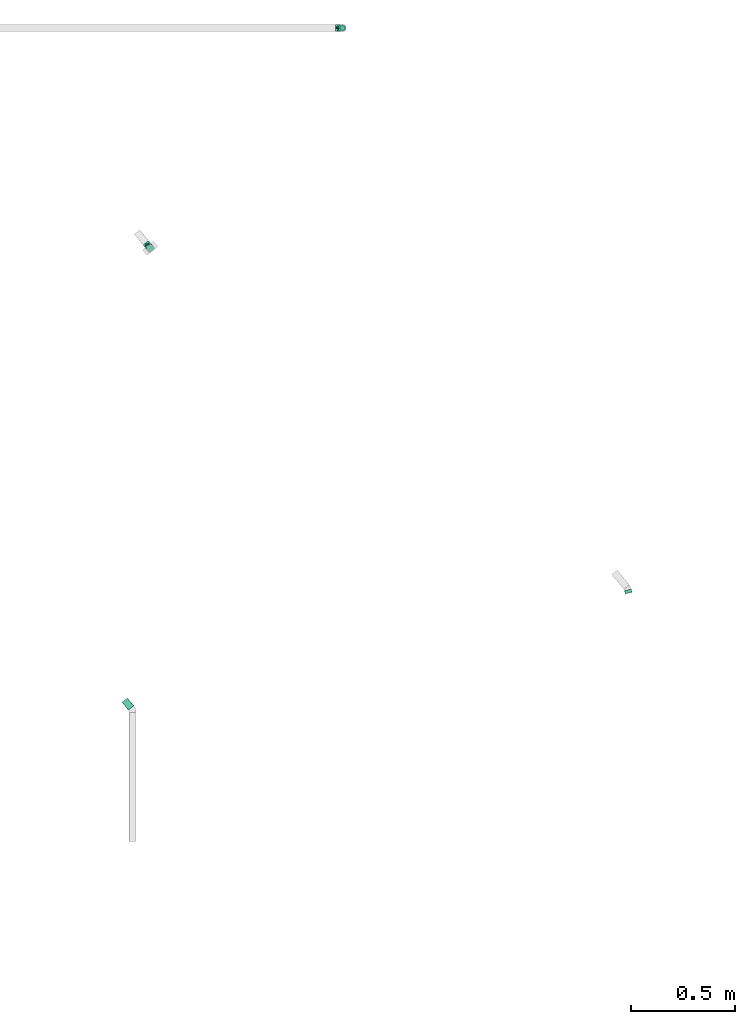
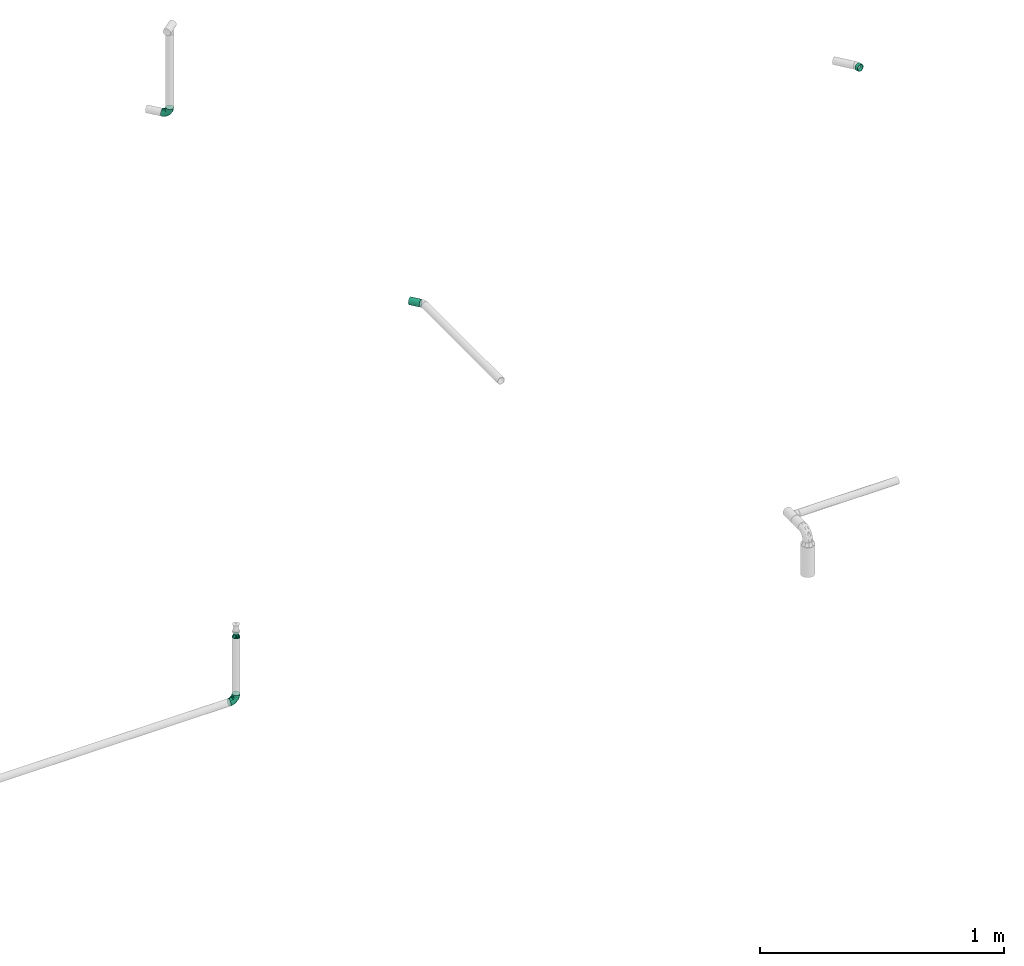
# One storey, part 53 of 63: 3 flow fittings, 2 flow segments.
"""IFC2X3 building model written with IfcOpenShell, lengths in millimetres."""

from ifc_helpers import new_model, entity, si_unit, converted_unit, derived_unit, direction, frame, origin_with_axes, origin_2d_with_axis, place, context, subcontext, project, spatial, hollow_circle, extrude, open_shell, surface_model, source, transform, mapped, type_object, element, save


model = new_model("IFC2X3")

# Units and contexts
model_context = context("Model", 3, precision=0.01, world=frame((0.0, 4.29681676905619e-09, 0.0)), true_north=direction((4.01073788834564e-13, 1.0)))
plan_context = context("Plan", 3, precision=0.01, world=frame((0.0, 4.29681676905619e-09, 0.0)), true_north=direction((4.01073788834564e-13, 1.0)))
body_context = subcontext(model_context, "Body", "Model", "MODEL_VIEW")
ifc_project = project(units=[converted_unit("PLANEANGLEUNIT", "DEGREE", entity("IfcPositiveLengthMeasure", 0.0174532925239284), si_unit("PLANEANGLEUNIT", "RADIAN"), dimensions=[0, 0, 0, 0, 0, 0, 0]), si_unit("AREAUNIT", "SQUARE_METRE"), si_unit("LENGTHUNIT", "METRE", prefix="MILLI"), si_unit("MASSUNIT", "GRAM", prefix="KILO"), si_unit("POWERUNIT", "WATT"), si_unit("PRESSUREUNIT", "PASCAL", prefix="KILO"), si_unit("FORCEUNIT", "NEWTON", prefix="KILO"), si_unit("ELECTRICVOLTAGEUNIT", "VOLT"), si_unit("ELECTRICCURRENTUNIT", "AMPERE"), si_unit("THERMODYNAMICTEMPERATUREUNIT", "DEGREE_CELSIUS"), si_unit("TIMEUNIT", "SECOND"), si_unit("VOLUMEUNIT", "CUBIC_METRE"), derived_unit("LINEARVELOCITYUNIT", [(si_unit("LENGTHUNIT", "METRE"), 1), (si_unit("TIMEUNIT", "SECOND"), -1)]), derived_unit("VOLUMETRICFLOWRATEUNIT", [(si_unit("VOLUMEUNIT", "CUBIC_METRE"), 1), (si_unit("TIMEUNIT", "SECOND"), -1)]), derived_unit("THERMALTRANSMITTANCEUNIT", [(si_unit("POWERUNIT", "WATT"), 1), (si_unit("THERMODYNAMICTEMPERATUREUNIT", "KELVIN"), -1), (si_unit("AREAUNIT", "SQUARE_METRE"), -1)]), derived_unit("SOUNDPRESSUREUNIT", [(si_unit("PRESSUREUNIT", "PASCAL"), 1)])], contexts=[model_context, plan_context])

# Site, building, storey
site_placement = place(None, frame((0.0, -4.29681676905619e-09, 0.0), z_axis=(0.0, 0.0, 1.0), x_axis=(1.0, 0.0, 0.0)))
site = spatial("IfcSite", under=ifc_project, at=site_placement, CompositionType="ELEMENT")
building_placement = place(site_placement, frame((0.0, 4.29681676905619e-09, 0.0), z_axis=(0.0, 0.0, 1.0), x_axis=(1.0, 0.0, 0.0)))
building = spatial("IfcBuilding", under=site, at=building_placement, Name="mc-building", CompositionType="ELEMENT")
storey_placement = place(building_placement, frame((0.0, 0.0, 207370.0), z_axis=(0.0, 0.0, 1.0), x_axis=(1.0, 0.0, 0.0)))
storey = spatial("IfcBuildingStorey", under=building, at=storey_placement, Name="Nivå E", CompositionType="ELEMENT", Elevation=207370.0)

# Flow fittings
pipe_fitting_type_1 = type_object("IfcPipeFittingType", Name="magi_pipe_fe_reducer_centric_short_NOR", PredefinedType="TRANSITION")
shared_shape_1 = source(origin_with_axes(), body_context, "Body", "SurfaceModel", [
    surface_model("IfcShellBasedSurfaceModel", [(14.4, 5.35, -9.26647), (14.4, 0.0, -10.7), (14.4, 2.76936, -10.33541), (14.4, 10.33541, -2.76936), (14.4, 7.56604, -7.56604), (14.4, -10.33541, -2.76936), (14.4, 9.26647, -5.35), (14.4, 0.0, 10.7), (14.4, -5.35, -9.26647), (14.4, -2.76936, -10.33541), (14.4, -7.56604, -7.56604), (14.4, -9.26647, -5.35), (14.4, 10.7, 0.0), (14.4, 10.33541, 2.76936), (14.4, 9.26647, 5.35), (14.4, 7.56604, 7.56604), (14.4, 2.76936, 10.33541), (14.4, 5.35, 9.26647), (14.4, -10.33541, 2.76936), (14.4, -7.56604, 7.56604), (14.4, -9.26647, 5.35), (14.4, -10.7, 0.0), (14.4, -2.76936, 10.33541), (14.4, -5.35, 9.26647), (12.4, 2.76936, 10.33541), (12.4, -10.33541, -2.76936), (12.4, 0.0, 10.7), (12.4, 5.35, 9.26647), (12.4, 7.56604, 7.56604), (12.4, 9.26647, 5.35), (12.4, 10.33541, 2.76936), (12.4, -10.33541, 2.76936), (12.4, -2.76936, 10.33541), (12.4, -7.56604, 7.56604), (12.4, -5.35, 9.26647), (12.4, -9.26647, 5.35), (12.4, -10.7, 0.0), (12.4, 10.33541, -2.76936), (12.4, 5.35, -9.26647), (12.4, 9.26647, -5.35), (12.4, 7.56604, -7.56604), (12.4, 2.76936, -10.33541), (12.4, -9.26647, -5.35), (12.4, -5.35, -9.26647), (12.4, -7.56604, -7.56604), (12.4, 0.0, -10.7), (12.4, -2.76936, -10.33541), (12.4, 10.7, 0.0), (-2.0, 11.9501, 11.9501), (-2.0, 0.0, 16.9), (-2.0, 4.37404, 16.32415), (-2.0, 8.45, 14.63583), (-2.0, 14.63583, 8.45), (-2.0, 16.32415, 4.37404), (-2.0, -16.32415, 4.37404), (-2.0, -8.45, 14.63583), (-2.0, -14.63583, 8.45), (-2.0, -11.9501, 11.9501), (-2.0, -4.37404, 16.32415), (-2.0, -16.32415, -4.37404), (-2.0, -16.9, 0.0), (-2.0, -8.45, -14.63583), (-2.0, 16.32415, -4.37404), (-2.0, 11.9501, -11.9501), (-2.0, 14.63583, -8.45), (-2.0, 8.45, -14.63583), (-2.0, 4.37404, -16.32415), (-2.0, 0.0, -16.9), (-2.0, -11.9501, -11.9501), (-2.0, -14.63583, -8.45), (-2.0, -4.37404, -16.32415), (-2.0, 16.9, 0.0), (0.0, 4.37404, -16.32415), (0.0, 8.45, -14.63583), (0.0, 11.9501, -11.9501), (0.0, 0.0, -16.9), (0.0, 16.32415, -4.37404), (0.0, 16.32415, 4.37404), (0.0, 14.63583, -8.45), (0.0, -8.45, -14.63583), (0.0, -4.37404, -16.32415), (0.0, -11.9501, -11.9501), (0.0, -16.32415, -4.37404), (0.0, -14.63583, -8.45), (0.0, -16.32415, 4.37404), (0.0, 16.9, 0.0), (0.0, 14.63583, 8.45), (0.0, 11.9501, 11.9501), (0.0, 4.37404, 16.32415), (0.0, 8.45, 14.63583), (0.0, 0.0, 16.9), (0.0, -14.63583, 8.45), (0.0, -16.9, 0.0), (0.0, -8.45, 14.63583), (0.0, -11.9501, 11.9501), (0.0, -4.37404, 16.32415), (12.4, 9.3625, -2.31662), (0.0, 14.42505, -5.97505), (0.0, 15.66253, -2.98753), (12.4, -6.6875, -6.94985), (0.0, -13.18758, -8.96258), (0.0, 2.98753, -15.66253), (12.4, 0.0, -9.26647), (12.4, 6.6875, -6.94985), (0.0, 8.96258, -13.18758), (12.4, -9.3625, -2.31662), (0.0, -15.66253, -2.98753), (0.0, -14.42505, -5.97505), (0.0, 5.97505, -14.42505), (0.0, -2.98753, -15.66253), (0.0, -8.96258, -13.18758), (0.0, 13.18758, -8.96258), (12.4, 8.025, -4.63324), (12.4, -2.675, -9.26647), (12.4, 2.675, -9.26647), (0.0, -5.97505, -14.42505), (12.4, -8.025, -4.63324), (12.4, -9.3625, 2.31662), (0.0, -14.42505, 5.97505), (0.0, -15.66253, 2.98753), (12.4, 6.6875, 6.94985), (0.0, 13.18758, 8.96258), (0.0, -2.98753, 15.66253), (12.4, 0.0, 9.26647), (12.4, -6.6875, 6.94985), (0.0, -8.96258, 13.18758), (12.4, 9.3625, 2.31662), (0.0, 15.66253, 2.98753), (0.0, 14.42505, 5.97505), (0.0, -5.97505, 14.42505), (0.0, 2.98753, 15.66253), (0.0, 8.96258, 13.18758), (0.0, -13.18758, 8.96258), (12.4, -8.025, 4.63324), (12.4, 2.675, 9.26647), (12.4, -2.675, 9.26647), (0.0, 5.97505, 14.42505), (12.4, 8.025, 4.63324)], [open_shell([[[0, 1, 2]], [[3, 0, 4]], [[5, 0, 3]], [[3, 4, 6]], [[7, 5, 3]], [[1, 8, 9]], [[1, 0, 8]], [[10, 5, 11]], [[5, 10, 8]], [[0, 5, 8]], [[3, 12, 13]], [[13, 14, 15]], [[13, 15, 16]], [[7, 3, 16]], [[16, 15, 17]], [[7, 18, 5]], [[18, 19, 20]], [[21, 5, 18]], [[19, 22, 23]], [[22, 19, 18]], [[7, 22, 18]], [[13, 16, 3]], [[24, 25, 26]], [[27, 25, 24]], [[28, 29, 30]], [[28, 25, 27]], [[31, 26, 25]], [[32, 33, 34]], [[33, 32, 31]], [[33, 31, 35]], [[32, 26, 31]], [[31, 25, 36]], [[30, 37, 28]], [[25, 28, 37]], [[38, 37, 39]], [[37, 38, 25]], [[38, 39, 40]], [[41, 25, 38]], [[42, 43, 44]], [[43, 42, 25]], [[43, 45, 46]], [[43, 25, 41]], [[41, 45, 43]], [[37, 30, 47]], [[25, 5, 36]], [[42, 11, 25]], [[8, 44, 43]], [[42, 44, 10]], [[9, 43, 46]], [[25, 11, 5]], [[5, 21, 36]], [[9, 8, 43]], [[10, 44, 8]], [[10, 11, 42]], [[1, 9, 46]], [[46, 45, 1]], [[41, 2, 45]], [[38, 0, 41]], [[6, 40, 39]], [[38, 40, 4]], [[3, 39, 37]], [[38, 4, 0]], [[0, 2, 41]], [[12, 3, 37]], [[6, 39, 3]], [[6, 4, 40]], [[47, 12, 37]], [[45, 2, 1]], [[30, 13, 47]], [[29, 14, 30]], [[17, 28, 27]], [[29, 28, 15]], [[16, 27, 24]], [[30, 14, 13]], [[13, 12, 47]], [[16, 17, 27]], [[15, 28, 17]], [[15, 14, 29]], [[7, 16, 24]], [[24, 26, 7]], [[32, 22, 26]], [[34, 23, 32]], [[20, 33, 35]], [[34, 33, 19]], [[18, 35, 31]], [[34, 19, 23]], [[23, 22, 32]], [[21, 18, 31]], [[20, 35, 18]], [[20, 19, 33]], [[36, 21, 31]], [[26, 22, 7]], [[48, 49, 50]], [[48, 50, 51]], [[48, 52, 53]], [[48, 53, 49]], [[49, 53, 54]], [[55, 56, 57]], [[55, 58, 49]], [[56, 55, 49]], [[49, 54, 56]], [[54, 59, 60]], [[54, 53, 61]], [[53, 62, 63]], [[63, 62, 64]], [[63, 65, 66]], [[61, 53, 63]], [[67, 63, 66]], [[59, 68, 69]], [[68, 59, 61]], [[61, 67, 70]], [[59, 54, 61]], [[63, 67, 61]], [[53, 71, 62]], [[72, 73, 74]], [[75, 72, 74]], [[74, 76, 77]], [[76, 74, 78]], [[74, 77, 79]], [[75, 79, 80]], [[75, 74, 79]], [[81, 82, 83]], [[82, 81, 79]], [[79, 84, 82]], [[77, 76, 85]], [[77, 86, 87]], [[77, 87, 88]], [[88, 84, 79]], [[88, 87, 89]], [[84, 88, 90]], [[90, 91, 84]], [[92, 82, 84]], [[91, 93, 94]], [[91, 90, 93]], [[93, 90, 95]], [[79, 77, 88]], [[59, 82, 60]], [[69, 83, 59]], [[79, 68, 61]], [[69, 68, 81]], [[80, 61, 70]], [[59, 83, 82]], [[82, 92, 60]], [[80, 79, 61]], [[81, 68, 79]], [[81, 83, 69]], [[75, 80, 70]], [[70, 67, 75]], [[66, 72, 67]], [[65, 73, 66]], [[78, 63, 64]], [[65, 63, 74]], [[76, 64, 62]], [[65, 74, 73]], [[73, 72, 66]], [[85, 76, 62]], [[78, 64, 76]], [[78, 74, 63]], [[71, 85, 62]], [[67, 72, 75]], [[53, 77, 71]], [[52, 86, 53]], [[89, 48, 51]], [[52, 48, 87]], [[88, 51, 50]], [[53, 86, 77]], [[77, 85, 71]], [[88, 89, 51]], [[87, 48, 89]], [[87, 86, 52]], [[90, 88, 50]], [[50, 49, 90]], [[58, 95, 49]], [[55, 93, 58]], [[91, 57, 56]], [[55, 57, 94]], [[84, 56, 54]], [[55, 94, 93]], [[93, 95, 58]], [[92, 84, 54]], [[91, 56, 84]], [[91, 94, 57]], [[60, 92, 54]], [[49, 95, 90]], [[27, 34, 47]], [[47, 34, 43]], [[43, 38, 47]], [[43, 34, 36]], [[90, 87, 94]], [[92, 94, 87]], [[87, 74, 92]], [[75, 92, 74]], [[81, 92, 75]], [[74, 87, 85]], [[96, 97, 98]], [[81, 99, 100]], [[101, 102, 75]], [[98, 85, 47]], [[74, 103, 104]], [[104, 103, 38]], [[105, 106, 107]], [[38, 108, 104]], [[102, 109, 75]], [[110, 99, 81]], [[47, 96, 98]], [[103, 111, 112]], [[109, 102, 113]], [[36, 92, 106]], [[102, 101, 114]], [[110, 115, 43]], [[96, 112, 97]], [[107, 116, 105]], [[36, 106, 105]], [[113, 115, 109]], [[43, 115, 113]], [[116, 107, 100]], [[108, 38, 114]], [[111, 103, 74]], [[111, 97, 112]], [[99, 110, 43]], [[116, 100, 99]], [[101, 108, 114]], [[117, 118, 119]], [[87, 120, 121]], [[122, 123, 90]], [[119, 92, 36]], [[94, 124, 125]], [[125, 124, 34]], [[126, 127, 128]], [[34, 129, 125]], [[123, 130, 90]], [[131, 120, 87]], [[36, 117, 119]], [[124, 132, 133]], [[130, 123, 134]], [[47, 85, 127]], [[123, 122, 135]], [[131, 136, 27]], [[117, 133, 118]], [[128, 137, 126]], [[47, 127, 126]], [[134, 136, 130]], [[27, 136, 134]], [[137, 128, 121]], [[129, 34, 135]], [[132, 124, 94]], [[132, 118, 133]], [[120, 131, 27]], [[137, 121, 120]], [[122, 129, 135]]])]),
])
flow_fitting_placement = place(storey_placement, frame((726011.70373, 446158.4735, 3018.36794), z_axis=(0.0, -1.0, 0.0), x_axis=(0.0, 0.0, 1.0)))
element("IfcFlowFitting", 1, at=flow_fitting_placement, inside=storey, type_object=pipe_fitting_type_1, Name="magi_pipe_fe_reducer_centric_short_NOR", context=body_context, shape_type="MappedRepresentation", body=[
    mapped(shared_shape_1, transform((0.0, 0.0, 0.0), scale=1.0)),
])
pipe_fitting_type_2 = type_object("IfcPipeFittingType", Name="magi_pipe_fe_elbow_short_001", PredefinedType="BEND")
shared_shape_2 = source(origin_with_axes(), body_context, "Body", "SurfaceModel", [
    surface_model("IfcShellBasedSurfaceModel", [(-33.8, 8.45, -14.63583), (-33.8, 4.37404, -16.32415), (-33.8, 11.9501, -11.9501), (-33.8, -11.9501, -11.9501), (-33.8, -14.63583, -8.45), (-33.8, -8.45, -14.63583), (-33.8, 0.0, -16.9), (-33.8, -4.37404, -16.32415), (-33.8, -4.37404, 16.32415), (-33.8, 0.0, 16.9), (-33.8, -8.45, 14.63583), (-33.8, 16.32415, -4.37404), (-33.8, 14.63583, -8.45), (-33.8, -16.32415, -4.37404), (-33.8, -16.9, 0.0), (-33.8, -16.32415, 4.37404), (-33.8, 11.9501, 11.9501), (-33.8, 14.63583, 8.45), (-33.8, 16.32415, 4.37404), (-33.8, 4.37404, 16.32415), (-33.8, 8.45, 14.63583), (-33.8, -14.63583, 8.45), (-33.8, -11.9501, 11.9501), (-33.8, 16.9, 0.0), (-11.9501, 33.8, -11.9501), (0.0, 33.8, -16.9), (-4.37404, 33.8, -16.32415), (-8.45, 33.8, -14.63583), (-14.63583, 33.8, -8.45), (-16.32415, 33.8, -4.37404), (14.63583, 33.8, -8.45), (8.45, 33.8, 14.63583), (16.32415, 33.8, -4.37404), (8.45, 33.8, -14.63583), (11.9501, 33.8, -11.9501), (4.37404, 33.8, -16.32415), (16.32415, 33.8, 4.37404), (16.9, 33.8, 0.0), (-11.9501, 33.8, 11.9501), (-16.32415, 33.8, 4.37404), (-14.63583, 33.8, 8.45), (-8.45, 33.8, 14.63583), (-4.37404, 33.8, 16.32415), (11.9501, 33.8, 11.9501), (14.63583, 33.8, 8.45), (0.0, 33.8, 16.9), (4.37404, 33.8, 16.32415), (-16.9, 33.8, 0.0), (-24.79389, -13.12945, 9.48721), (-22.19287, -9.75018, 12.59315), (-24.09897, -14.97035, 0.0), (-14.93934, -10.76256, 8.5297), (-22.46095, -14.75051, 5.27077), (14.75051, 22.46094, 5.27077), (11.9251, 13.23888, 4.33236), (13.04069, 14.39795, 0.0), (7.71387, 13.68847, 11.55891), (9.75018, 22.19287, 12.59315), (4.10169, 13.0571, 14.04018), (-24.84007, -6.39063, 15.2048), (-25.81779, -2.23879, 16.61097), (-23.66549, 2.59054, 16.87119), (-26.50418, 14.06512, 11.08152), (-24.21253, 17.66365, 7.72657), (-29.58514, 15.86957, 7.00283), (-6.17382, -7.5455, 0.0), (-13.23888, -11.9251, 4.33236), (-14.39795, -13.04069, 0.0), (-17.81434, 18.87373, 11.97104), (-6.30846, 29.15138, 15.82987), (-2.31622, 25.28002, 16.85849), (-29.23923, 10.23435, 13.77053), (-1.45439, -2.85688, 7.61475), (-0.28326, 0.34872, 10.09509), (-5.74484, -4.04709, 10.4122), (-4.41137, 11.31918, 16.59407), (-8.39727, 3.10034, 15.7812), (-1.72649, 9.1306, 15.53089), (-17.39909, 24.75344, 7.64977), (-26.19233, 20.0512, 0.0), (-28.14518, 17.29657, 4.25857), (-26.05147, 6.6281, 15.96447), (-5.87354, 16.61944, 16.86968), (-12.51807, 12.51807, 16.48937), (-10.06312, 7.38516, 16.81295), (-3.01882, 3.01882, 13.81718), (-13.0571, -4.10169, 14.04018), (-16.82553, -0.15166, 16.38038), (10.76256, 14.93934, 8.5297), (13.12945, 24.79389, 9.48721), (6.39063, 24.84007, 15.2048), (2.23879, 25.81779, 16.61097), (-13.68847, -7.71387, 11.55891), (14.97035, 24.09897, 0.0), (-7.30894, 22.89991, 16.09489), (-10.67958, 26.17414, 14.008), (-12.78295, 18.26924, 15.06066), (-13.88562, 22.45231, 12.93244), (-18.04944, 15.16501, 14.04434), (-23.11658, 20.08178, 4.02986), (-21.84989, 21.84989, 0.0), (-18.55817, 25.48277, 3.93065), (-13.95142, 26.94732, 11.03289), (-18.57098, 7.23906, 16.59756), (-16.58335, 4.14122, 16.89279), (-17.96666, 11.46709, 15.63151), (-9.84453, 17.54304, 16.18938), (0.15166, 16.82553, 16.38038), (-23.27207, 11.47201, 14.23154), (3.84842, 5.86994, 10.70473), (-8.0212, -7.54413, 7.93275), (1.00345, -2.19508, 4.57414), (5.13203, 3.01004, 5.90201), (5.24161, 1.7543, 2.53265), (8.70457, 7.04947, 3.99182), (-20.0512, 26.19233, 0.0), (8.4852, 8.76699, 7.09296), (-4.55488, -6.72064, 4.90681), (2.05031, -2.05031, 0.0), (7.5455, 6.17382, 0.0), (-26.75399, 2.1369, -16.845), (-14.61995, 24.73803, -11.27736), (-28.45274, -13.45335, -9.81895), (-26.00469, 6.63555, -15.96645), (-23.06726, 20.04573, -4.26202), (-13.80647, -4.26506, -14.17873), (-14.67501, -0.21081, -16.07388), (-6.7902, -0.2828, -13.8478), (-24.53586, 11.08096, -14.13417), (-26.72048, 14.00837, -11.05776), (10.0967, 24.44989, -12.75976), (5.83237, 21.40218, -15.03047), (6.66249, 28.54238, -15.38093), (-20.38182, 15.48705, -12.74596), (12.53268, 21.23441, -9.15363), (12.54494, 15.67504, -5.54878), (9.7522, 12.89279, -8.66343), (-15.65186, 19.64213, -13.01327), (-12.03528, 20.66498, -14.67665), (-15.61907, 15.61906, -14.83879), (-25.56551, -15.26206, 0.0), (-24.65452, -15.12934, -5.50955), (13.45335, 28.45274, -9.81895), (15.12934, 24.65452, -5.50955), (-7.35442, -8.31014, -5.65563), (-15.67504, -12.54494, -5.54878), (-24.44989, -10.0967, -12.75976), (0.16522, 0.41303, -9.71728), (-5.70658, -5.33066, -8.89288), (-5.13869, -2.37198, -11.53565), (-21.23441, -12.53268, -9.15363), (0.71146, 7.93863, -14.09382), (0.21081, 14.67501, -16.07388), (3.49291, 14.42772, -14.76381), (-24.89911, -2.13088, -16.591), (-28.54238, -6.66249, -15.38093), (-18.44386, -7.71663, -13.26957), (2.13088, 24.89911, -16.591), (-28.64342, 17.44413, -2.89318), (1.70017, -1.28722, -5.09504), (-16.57067, 26.81947, -7.36596), (-17.69055, 27.4263, -3.76405), (-12.89279, -9.7522, -8.66343), (-5.96611, 5.96611, -15.95814), (-20.53709, 20.09345, -8.28985), (-2.1369, 26.75399, -16.845), (-6.89872, 24.58781, -16.02578), (-10.60739, 26.53157, -13.98044), (-21.40218, -5.83237, -15.03047), (2.93192, 5.89627, -11.55917), (6.89393, 12.61842, -11.82233), (5.58056, 5.95325, -8.79455), (-3.99512, 18.61798, -16.89635), (8.31014, 7.35442, -5.65563), (-9.1383, 9.86148, -16.89041), (-9.99983, 16.02119, -16.39699), (-16.68576, 9.78031, -16.34199), (-27.01915, 16.61158, -7.12979), (15.26206, 25.56551, 0.0), (-18.61798, 3.99512, -16.89635), (-19.37495, 27.82495, 0.0), (-12.61842, -6.89393, -11.82233), (-18.84705, 19.14018, -10.96545)], [open_shell([[[0, 1, 2]], [[3, 4, 5]], [[6, 7, 5]], [[8, 9, 10]], [[1, 6, 2]], [[11, 12, 2]], [[4, 2, 6]], [[2, 13, 10]], [[5, 4, 6]], [[2, 4, 13]], [[14, 15, 13]], [[11, 2, 16]], [[11, 17, 18]], [[11, 16, 17]], [[19, 20, 16]], [[16, 2, 10]], [[19, 16, 10]], [[21, 22, 15]], [[22, 13, 15]], [[22, 10, 13]], [[10, 9, 19]], [[11, 18, 23]], [[24, 25, 26]], [[24, 26, 27]], [[24, 28, 29]], [[25, 24, 30]], [[31, 32, 24]], [[33, 30, 34]], [[33, 35, 25]], [[25, 30, 33]], [[32, 30, 24]], [[32, 36, 37]], [[38, 24, 29]], [[39, 40, 29]], [[40, 38, 29]], [[38, 41, 42]], [[38, 31, 24]], [[31, 38, 42]], [[36, 43, 44]], [[36, 32, 43]], [[31, 45, 46]], [[32, 31, 43]], [[42, 45, 31]], [[39, 29, 47]], [[22, 48, 49]], [[15, 14, 50]], [[51, 48, 52]], [[53, 54, 55]], [[48, 22, 21]], [[15, 52, 21]], [[56, 57, 58]], [[49, 10, 22]], [[49, 59, 10]], [[9, 60, 61]], [[62, 63, 64]], [[65, 66, 67]], [[57, 43, 31]], [[62, 68, 63]], [[42, 69, 70]], [[20, 71, 16]], [[8, 60, 9]], [[72, 73, 74]], [[75, 76, 77]], [[16, 62, 17]], [[40, 39, 78]], [[79, 23, 80]], [[64, 18, 17]], [[9, 61, 19]], [[19, 81, 20]], [[82, 83, 84]], [[74, 85, 86]], [[59, 86, 87]], [[88, 89, 57]], [[90, 31, 46]], [[44, 53, 36]], [[46, 45, 91]], [[54, 53, 88]], [[44, 89, 53]], [[92, 86, 49]], [[89, 44, 43]], [[10, 59, 8]], [[53, 55, 93]], [[93, 36, 53]], [[66, 52, 67]], [[94, 82, 70]], [[95, 96, 94]], [[97, 98, 96]], [[79, 99, 100]], [[41, 38, 95]], [[101, 100, 99]], [[68, 78, 63]], [[42, 41, 69]], [[23, 18, 80]], [[95, 94, 69]], [[78, 101, 99]], [[38, 102, 95]], [[70, 45, 42]], [[97, 95, 102]], [[15, 50, 52]], [[90, 57, 31]], [[57, 90, 58]], [[81, 19, 61]], [[103, 104, 84]], [[105, 81, 103]], [[38, 40, 102]], [[106, 96, 83]], [[94, 106, 82]], [[91, 70, 107]], [[71, 62, 16]], [[62, 108, 98]], [[86, 59, 49]], [[67, 52, 50]], [[60, 59, 87]], [[92, 49, 51]], [[86, 85, 76]], [[91, 90, 46]], [[37, 36, 93]], [[107, 77, 58]], [[107, 58, 90]], [[58, 85, 109]], [[110, 74, 92]], [[72, 74, 110]], [[66, 51, 52]], [[72, 111, 112]], [[113, 114, 112]], [[56, 88, 57]], [[52, 48, 21]], [[49, 48, 51]], [[57, 89, 43]], [[53, 89, 88]], [[103, 81, 61]], [[71, 81, 108]], [[18, 64, 80]], [[63, 78, 99]], [[47, 115, 101]], [[101, 115, 100]], [[40, 78, 102]], [[68, 102, 78]], [[97, 96, 95]], [[105, 98, 108]], [[103, 84, 83]], [[107, 70, 82]], [[76, 84, 87]], [[82, 84, 75]], [[70, 91, 45]], [[90, 91, 107]], [[59, 60, 8]], [[61, 60, 87]], [[73, 85, 74]], [[109, 112, 116]], [[103, 61, 104]], [[105, 103, 83]], [[96, 105, 83]], [[81, 105, 108]], [[96, 98, 105]], [[62, 98, 68]], [[61, 87, 104]], [[87, 84, 104]], [[86, 76, 87]], [[77, 76, 85]], [[58, 77, 85]], [[75, 77, 107]], [[82, 75, 107]], [[76, 75, 84]], [[81, 71, 20]], [[62, 71, 108]], [[95, 69, 41]], [[70, 69, 94]], [[62, 64, 17]], [[80, 63, 99]], [[63, 80, 64]], [[80, 99, 79]], [[66, 65, 117]], [[110, 66, 117]], [[112, 114, 116]], [[118, 117, 65]], [[110, 92, 51]], [[112, 111, 113]], [[119, 55, 54]], [[74, 86, 92]], [[58, 109, 56]], [[116, 56, 109]], [[66, 110, 51]], [[72, 110, 117]], [[111, 72, 117]], [[73, 112, 109]], [[117, 118, 111]], [[113, 111, 118]], [[118, 119, 113]], [[114, 119, 54]], [[119, 114, 113]], [[116, 54, 88]], [[54, 116, 114]], [[116, 88, 56]], [[112, 73, 72]], [[85, 73, 109]], [[78, 39, 101]], [[47, 101, 39]], [[102, 68, 97]], [[97, 68, 98]], [[82, 106, 83]], [[94, 96, 106]], [[1, 120, 6]], [[28, 24, 121]], [[3, 122, 4]], [[0, 123, 1]], [[100, 124, 79]], [[125, 126, 127]], [[128, 2, 129]], [[130, 131, 132]], [[128, 129, 133]], [[134, 135, 136]], [[137, 138, 139]], [[128, 0, 2]], [[67, 140, 141]], [[134, 142, 143]], [[141, 13, 4]], [[144, 65, 145]], [[146, 3, 5]], [[147, 148, 149]], [[145, 141, 150]], [[151, 152, 153]], [[154, 7, 6]], [[5, 155, 146]], [[150, 146, 156]], [[155, 5, 7]], [[143, 135, 134]], [[35, 157, 25]], [[23, 79, 158]], [[148, 159, 144]], [[160, 161, 29]], [[145, 162, 144]], [[163, 152, 151]], [[29, 28, 160]], [[121, 164, 160]], [[33, 34, 130]], [[25, 165, 26]], [[26, 165, 166]], [[142, 34, 30]], [[24, 27, 167]], [[124, 161, 164]], [[157, 35, 132]], [[155, 154, 168]], [[123, 0, 128]], [[169, 170, 171]], [[172, 157, 152]], [[26, 166, 27]], [[132, 35, 33]], [[142, 130, 34]], [[168, 154, 126]], [[136, 135, 173]], [[133, 137, 139]], [[2, 12, 129]], [[170, 131, 130]], [[30, 32, 143]], [[172, 174, 175]], [[176, 123, 128]], [[158, 177, 11]], [[135, 55, 119]], [[167, 27, 166]], [[175, 166, 172]], [[137, 167, 138]], [[122, 141, 4]], [[140, 14, 13]], [[32, 37, 178]], [[170, 130, 134]], [[152, 157, 131]], [[165, 157, 172]], [[153, 170, 151]], [[152, 163, 174]], [[168, 125, 156]], [[122, 146, 150]], [[120, 154, 6]], [[179, 174, 126]], [[179, 126, 154]], [[126, 163, 127]], [[162, 145, 150]], [[140, 13, 141]], [[32, 178, 143]], [[55, 143, 178]], [[177, 129, 12]], [[128, 133, 139]], [[176, 128, 139]], [[120, 123, 179]], [[121, 160, 28]], [[161, 100, 180]], [[166, 175, 138]], [[121, 24, 167]], [[161, 47, 29]], [[79, 124, 158]], [[124, 164, 177]], [[161, 124, 100]], [[136, 171, 170]], [[127, 163, 151]], [[147, 171, 159]], [[148, 144, 162]], [[127, 151, 169]], [[127, 181, 125]], [[129, 177, 164]], [[12, 11, 177]], [[159, 65, 144]], [[67, 141, 145]], [[143, 55, 135]], [[135, 119, 173]], [[123, 120, 1]], [[154, 120, 179]], [[157, 165, 25]], [[166, 165, 172]], [[172, 152, 174]], [[176, 139, 175]], [[126, 174, 163]], [[176, 174, 179]], [[174, 176, 175]], [[123, 176, 179]], [[150, 181, 162]], [[127, 149, 181]], [[181, 148, 162]], [[159, 148, 147]], [[171, 136, 173]], [[170, 134, 136]], [[159, 171, 173]], [[171, 147, 169]], [[169, 147, 149]], [[151, 170, 169]], [[164, 182, 129]], [[182, 121, 137]], [[181, 149, 148]], [[169, 149, 127]], [[182, 137, 133]], [[167, 137, 121]], [[166, 138, 167]], [[175, 139, 138]], [[129, 182, 133]], [[121, 182, 164]], [[161, 160, 164]], [[47, 161, 180]], [[177, 158, 124]], [[23, 158, 11]], [[130, 132, 33]], [[157, 132, 131]], [[143, 142, 30]], [[130, 142, 134]], [[154, 155, 7]], [[146, 155, 168]], [[146, 122, 3]], [[141, 122, 150]], [[152, 131, 153]], [[159, 119, 118]], [[67, 145, 65]], [[170, 153, 131]], [[119, 159, 173]], [[159, 118, 65]], [[156, 125, 181]], [[126, 125, 168]], [[150, 156, 181]], [[168, 156, 146]]])]),
])
for number, where, z_axis, x_axis, name in (
    (2, (726011.70373, 446158.4735, 2700.0), (0.0, -1.0, 0.0), (1.0, 0.0, 0.0), "magi_pipe_fe_elbow_short_001"),
    (3, (725084.66483, 445096.14764, 6600.0), (0.777146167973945, 0.629320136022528, 0.0), (0.0, 0.0, -1.0), "magi_pipe_fe_elbow_short_001"),
):
    element("IfcFlowFitting", number, at=place(storey_placement, frame(where, z_axis=z_axis, x_axis=x_axis)), inside=storey, type_object=pipe_fitting_type_2, Name=name, context=body_context, shape_type="MappedRepresentation", body=[
        mapped(shared_shape_2, transform((0.0, 0.0, 0.0), scale=1.0)),
    ])

# Flow segments
pipe_segment_type = type_object("IfcPipeSegmentType", Name="Stålrør normaltykke", PredefinedType="RIGIDSEGMENT")
shared_shape_3 = source(origin_with_axes(), body_context, "Body", "SweptSolid", [
    extrude(hollow_circle(Radius=16.9, WallThickness=2.0, at=origin_2d_with_axis()), frame((0.0, 0.0, 0.0), z_axis=(1.0, 0.0, 0.0), x_axis=(0.0, 1.0, 0.0)), (0.0, 0.0, 1.0), 15.8),
])
flow_segment_1_placement = place(storey_placement, frame((727391.87594, 443433.50914, 7030.0), z_axis=(0.0, 0.0, 1.0), x_axis=(-0.24035689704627, 0.970684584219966, 0.0)))
element("IfcFlowSegment", 4, at=flow_segment_1_placement, inside=storey, type_object=pipe_segment_type, Name="Stålrør normaltykke", context=body_context, shape_type="MappedRepresentation", body=[
    mapped(shared_shape_3, transform((0.0, 0.0, 0.0), scale=1.0)),
])
shared_shape_4 = source(origin_with_axes(), body_context, "Body", "SweptSolid", [
    extrude(hollow_circle(Radius=16.9, WallThickness=2.0, at=origin_2d_with_axis()), frame((0.0, 0.0, 0.0), z_axis=(1.0, 0.0, 0.0), x_axis=(0.0, 1.0, 0.0)), (0.0, 0.0, 1.0), 48.8),
])
flow_segment_2_placement = place(storey_placement, frame((724961.74939, 442917.32088, 7030.0), z_axis=(0.0, 0.0, 1.0), x_axis=(0.629320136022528, -0.777146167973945, 0.0)))
element("IfcFlowSegment", 5, at=flow_segment_2_placement, inside=storey, type_object=pipe_segment_type, Name="Stålrør normaltykke", context=body_context, shape_type="MappedRepresentation", body=[
    mapped(shared_shape_4, transform((0.0, 0.0, 0.0), scale=1.0)),
])

save(model, "model.ifc")
